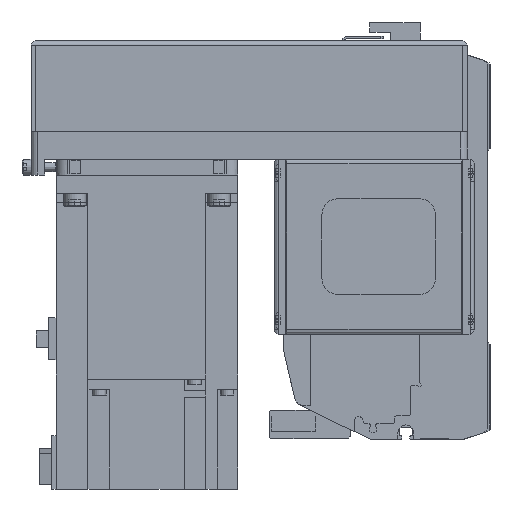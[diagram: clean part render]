
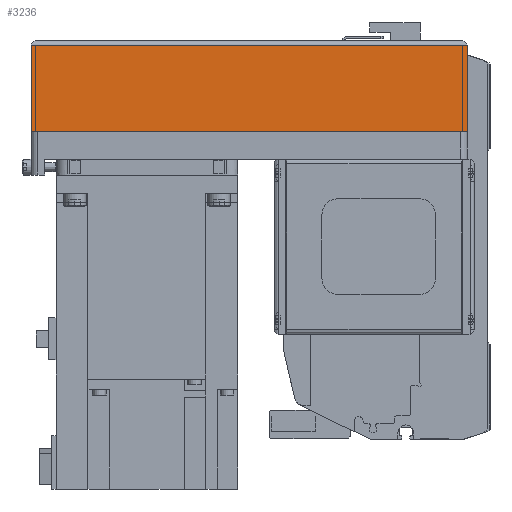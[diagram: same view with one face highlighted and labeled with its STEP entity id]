
A CAD part, left-side view. The second image highlights one B-rep face of the part: STEP entity #3236.
In plain terms, the highlighted planar face has unit normal (-1, 0, 0) as drawn and (0, 1, 0) by its records, which use the part's own axes.
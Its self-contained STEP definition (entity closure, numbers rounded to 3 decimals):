
#3236 = ADVANCED_FACE( '', ( #6852 ), #6853, .T. );
#6852 = FACE_OUTER_BOUND( '', #10656, .T. );
#6853 = PLANE( '', #10657 );
#10656 = EDGE_LOOP( '', ( #19831, #19832, #19833, #19834 ) );
#10657 = AXIS2_PLACEMENT_3D( '', #19835, #19836, #19837 );
#19831 = ORIENTED_EDGE( '', *, *, #23681, .F. );
#19832 = ORIENTED_EDGE( '', *, *, #24457, .F. );
#19833 = ORIENTED_EDGE( '', *, *, #21910, .T. );
#19834 = ORIENTED_EDGE( '', *, *, #23434, .T. );
#19835 = CARTESIAN_POINT( '', ( -192., 40., -50. ) );
#19836 = DIRECTION( '', ( 0., 1., 0. ) );
#19837 = DIRECTION( '', ( 0., 0., 1. ) );
#21910 = EDGE_CURVE( '', #26311, #25584, #26315, .T. );
#23434 = EDGE_CURVE( '', #25584, #28745, #28747, .T. );
#23681 = EDGE_CURVE( '', #27267, #28745, #29105, .T. );
#24457 = EDGE_CURVE( '', #26311, #27267, #30140, .T. );
#25584 = VERTEX_POINT( '', #31567 );
#26311 = VERTEX_POINT( '', #32652 );
#26315 = LINE( '', #32658, #32659 );
#27267 = VERTEX_POINT( '', #34279 );
#28745 = VERTEX_POINT( '', #36692 );
#28747 = LINE( '', #36695, #36696 );
#29105 = LINE( '', #37286, #37287 );
#30140 = LINE( '', #38863, #38864 );
#31567 = CARTESIAN_POINT( '', ( -192., 40., -12.1 ) );
#32652 = CARTESIAN_POINT( '', ( -192., 40., -50. ) );
#32658 = CARTESIAN_POINT( '', ( -192., 40., -50. ) );
#32659 = VECTOR( '', #40827, 1000. );
#34279 = CARTESIAN_POINT( '', ( 0., 40., -50. ) );
#36692 = CARTESIAN_POINT( '', ( 0., 40., -12.1 ) );
#36695 = CARTESIAN_POINT( '', ( -192., 40., -12.1 ) );
#36696 = VECTOR( '', #42792, 1000. );
#37286 = CARTESIAN_POINT( '', ( 0., 40., -50. ) );
#37287 = VECTOR( '', #43088, 1000. );
#38863 = CARTESIAN_POINT( '', ( -192., 40., -50. ) );
#38864 = VECTOR( '', #43898, 1000. );
#40827 = DIRECTION( '', ( 0., 0., 1. ) );
#42792 = DIRECTION( '', ( 1., 0., 0. ) );
#43088 = DIRECTION( '', ( 0., 0., 1. ) );
#43898 = DIRECTION( '', ( 1., 0., 0. ) );
